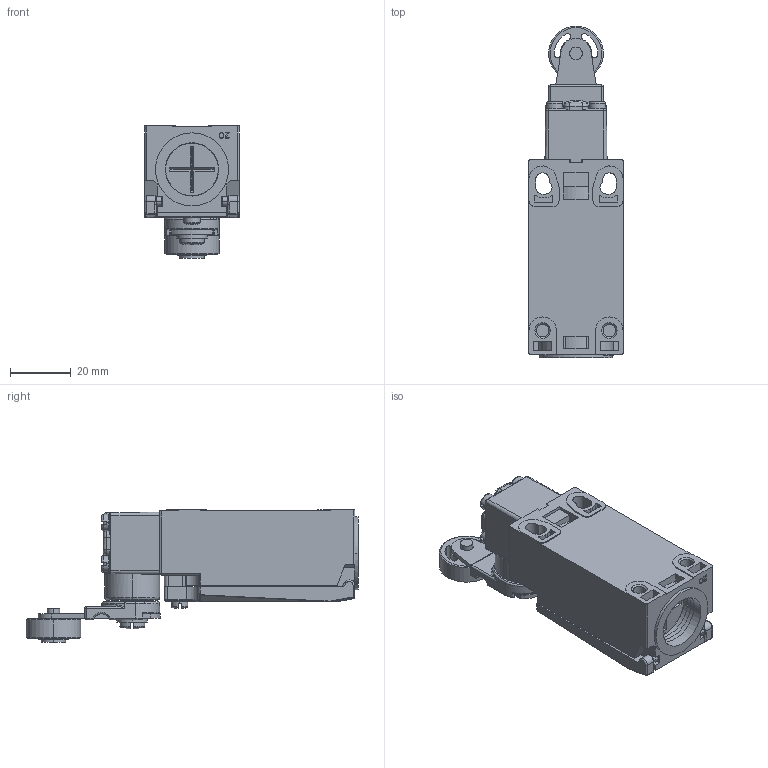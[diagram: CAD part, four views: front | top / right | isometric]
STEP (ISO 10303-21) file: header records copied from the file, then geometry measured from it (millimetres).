
FILE_DESCRIPTION(/* description */ (''),/* implementation_level */ '2;1');
FILE_NAME(/* name */ 'ALS3-P...C3.stp',/* time_stamp */ '2022-04-21T15:21:39+08:00',/* author */ (''),/* organization */ (''),/* preprocessor_version */ 'ST-DEVELOPER v16.7',/* originating_system */ 'SIEMENS PLM Software NX 12.0',/* authorisation */ '');
FILE_SCHEMA (('AUTOMOTIVE_DESIGN { 1 0 10303 214 3 1 1 1 }'));
Products named in the file (14): TZ-8轮子铆钉; TZ-8钢轮; 4122摆杆; M3X22螺钉; M5X13螺钉; 4122摆杆套; 4120头部基座; M3X9; 20210810COVER_BODY; 基座; 尾塞; 4125轮子组件; 4125头部组件; ALS3-P...C3_stp
Assembly tree (16 placements, depth 4):
  ALS3-P...C3_stp
    尾塞
    基座
    20210810COVER_BODY
    M3X9
    4125头部组件
      4120头部基座
      4122摆杆套
      4125轮子组件
        4122摆杆
        TZ-8钢轮
        TZ-8轮子铆钉
      M5X13螺钉
      M3X22螺钉  x4
Bounding box: 31 x 109.1 x 43.45 mm (x, y, z)
Volume: 31154.6 mm3; surface area: 33439 mm2
Topology: 14 solids, 14 shells, 1726 faces, 4846 edges, 3180 vertices
Faces by surface type: plane 899, cylinder 540, cone 113, torus 80, bspline 56, sphere 38
Entity records: 58985 total; most frequent: CARTESIAN_POINT 16346, ORIENTED_EDGE 9126, DIRECTION 8681, EDGE_CURVE 4563, AXIS2_PLACEMENT_3D 3053, VERTEX_POINT 3018, LINE 2575, VECTOR 2575
